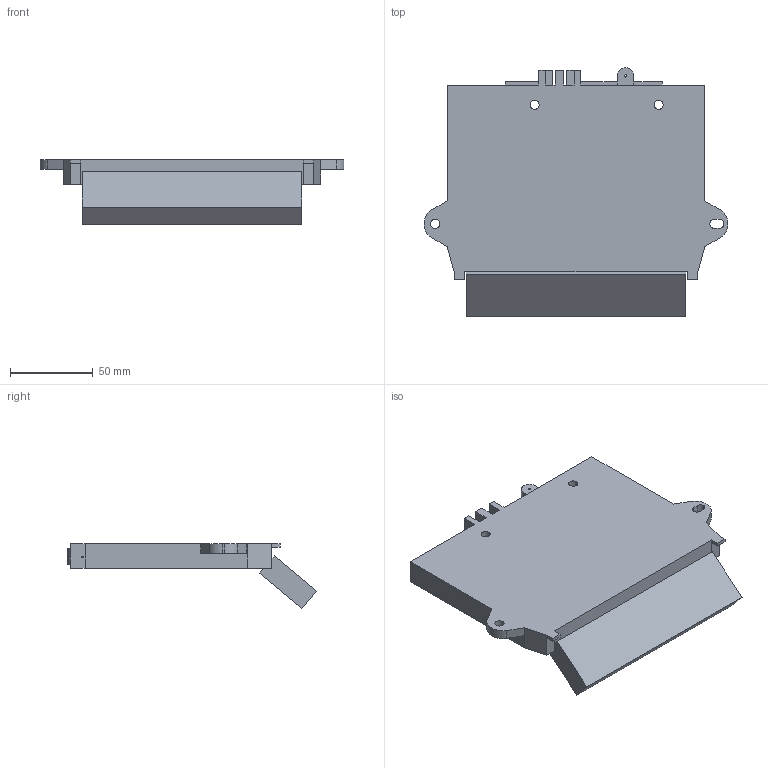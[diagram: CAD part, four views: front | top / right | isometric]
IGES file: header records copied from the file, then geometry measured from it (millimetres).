
Start section: Data from Parasolid IGES Translator 15.0.47, Copyright(c) 2006 Siemens P LM Software. All Rights Reserved.
Global section: file name: 9155202.igs; native system:  By UGS Corp.; preprocessor: XPlus GENERIC/IGES 3.0; author: Noname; organization: Noname; date: 20160902.132825; units: millimetre
Bounding box: 183.6 x 150.45 x 39.07 mm (x, y, z)
Surface area: 57515.5 mm2 (no closed solid volume)
Topology: 0 solids, 0 shells, 78 faces, 456 edges, 450 vertices
Faces by surface type: extrusion 66, revolution 12
